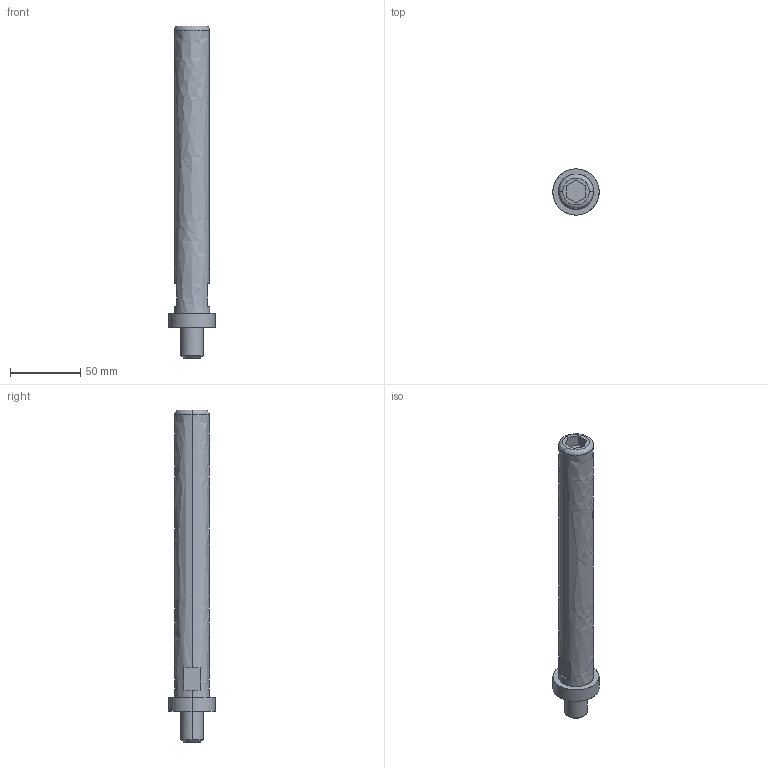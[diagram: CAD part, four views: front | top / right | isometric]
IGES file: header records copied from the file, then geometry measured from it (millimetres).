
Global section: file name: E:\UnigraphicsGraphicData\MISUMI_PRESS-PARTS\IGES\3d_sga33-215_00792_r00.igs; native system: NX V5.0; preprocessor: UGS NX IGES V5.0; author: MISUMI; date: 20110105.162530; units: millimetre
Bounding box: 33 x 33 x 237 mm (x, y, z)
Surface area: 20217.9 mm2 (no closed solid volume)
Topology: 0 solids, 0 shells, 27 faces, 176 edges, 176 vertices
Faces by surface type: bspline 27
